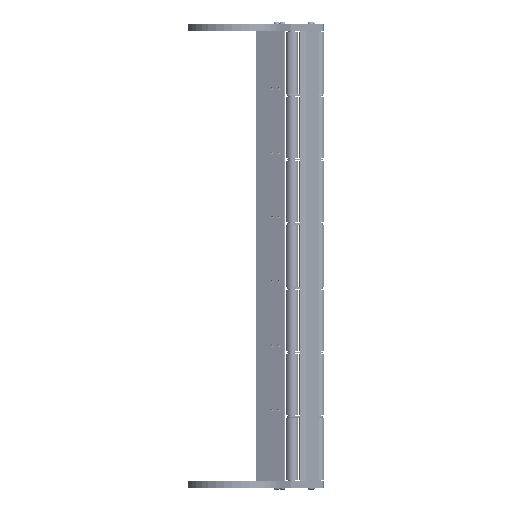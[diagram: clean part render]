
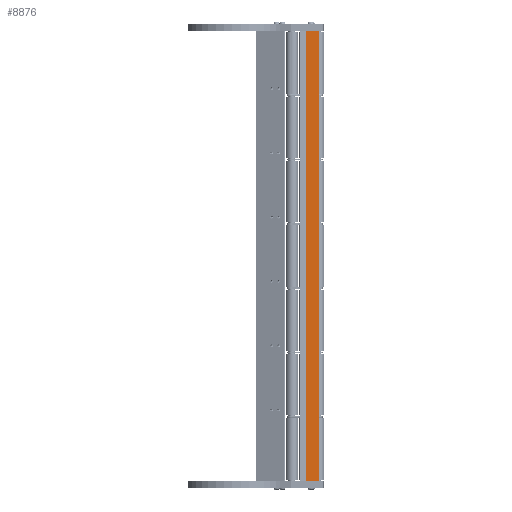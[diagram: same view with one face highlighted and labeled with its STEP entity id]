
A CAD part, front view. The second image highlights one B-rep face of the part: STEP entity #8876.
In plain terms, the highlighted planar face has unit normal (0.768, -0.641, 0) as drawn and (0, 1, 0) by its records, which use the part's own axes.
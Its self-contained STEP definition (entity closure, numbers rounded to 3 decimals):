
#150 = VERTEX_POINT ( 'NONE', #15224 ) ;
#342 = CARTESIAN_POINT ( 'NONE',  ( 25., 13.9, 547. ) ) ;
#1994 = VERTEX_POINT ( 'NONE', #8215 ) ;
#2035 = DIRECTION ( 'NONE',  ( 1., 0., 0. ) ) ;
#2059 = AXIS2_PLACEMENT_3D ( 'NONE', #7646, #17723, #2035 ) ;
#2683 = CARTESIAN_POINT ( 'NONE',  ( 25., 13.9, 547. ) ) ;
#3631 = ORIENTED_EDGE ( 'NONE', *, *, #15490, .F. ) ;
#3684 = VECTOR ( 'NONE', #12283, 1000. ) ;
#4486 = EDGE_CURVE ( 'NONE', #1994, #6194, #15652, .T. ) ;
#5732 = LINE ( 'NONE', #12936, #10982 ) ;
#6012 = DIRECTION ( 'NONE',  ( 0., 0., -1. ) ) ;
#6194 = VERTEX_POINT ( 'NONE', #6553 ) ;
#6269 = FACE_OUTER_BOUND ( 'NONE', #13426, .T. ) ;
#6383 = EDGE_CURVE ( 'NONE', #150, #7709, #15372, .T. ) ;
#6553 = CARTESIAN_POINT ( 'NONE',  ( 0., 13.9, 0. ) ) ;
#7439 = ORIENTED_EDGE ( 'NONE', *, *, #4486, .T. ) ;
#7646 = CARTESIAN_POINT ( 'NONE',  ( 25., 13.9, 547. ) ) ;
#7709 = VERTEX_POINT ( 'NONE', #14278 ) ;
#8215 = CARTESIAN_POINT ( 'NONE',  ( 25., 13.9, 0. ) ) ;
#8825 = DIRECTION ( 'NONE',  ( 0., 0., -1. ) ) ;
#8876 = ADVANCED_FACE ( 'NONE', ( #6269 ), #16129, .F. ) ;
#9844 = EDGE_CURVE ( 'NONE', #150, #1994, #11943, .T. ) ;
#10770 = DIRECTION ( 'NONE',  ( -1., 0., 0. ) ) ;
#10934 = VECTOR ( 'NONE', #8825, 1000. ) ;
#10982 = VECTOR ( 'NONE', #6012, 1000. ) ;
#11406 = CARTESIAN_POINT ( 'NONE',  ( 25., 13.9, 0. ) ) ;
#11943 = LINE ( 'NONE', #342, #10934 ) ;
#12283 = DIRECTION ( 'NONE',  ( -1., 0., 0. ) ) ;
#12360 = ORIENTED_EDGE ( 'NONE', *, *, #9844, .T. ) ;
#12936 = CARTESIAN_POINT ( 'NONE',  ( 0., 13.9, 547. ) ) ;
#13426 = EDGE_LOOP ( 'NONE', ( #7439, #3631, #18222, #12360 ) ) ;
#14278 = CARTESIAN_POINT ( 'NONE',  ( 0., 13.9, 547. ) ) ;
#14853 = VECTOR ( 'NONE', #10770, 1000. ) ;
#15224 = CARTESIAN_POINT ( 'NONE',  ( 25., 13.9, 547. ) ) ;
#15372 = LINE ( 'NONE', #2683, #14853 ) ;
#15490 = EDGE_CURVE ( 'NONE', #7709, #6194, #5732, .T. ) ;
#15652 = LINE ( 'NONE', #11406, #3684 ) ;
#16129 = PLANE ( 'NONE',  #2059 ) ;
#17723 = DIRECTION ( 'NONE',  ( 0., -1., 0. ) ) ;
#18222 = ORIENTED_EDGE ( 'NONE', *, *, #6383, .F. ) ;
